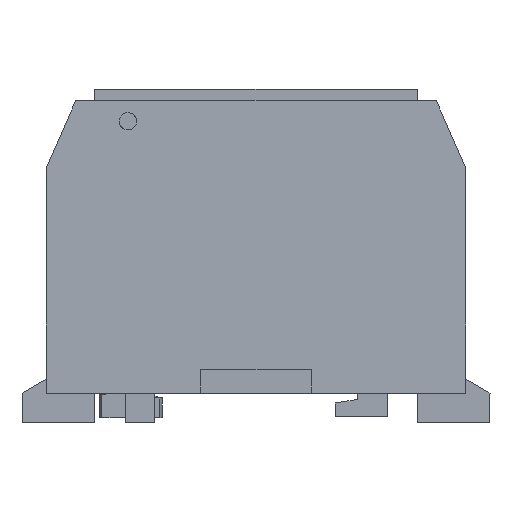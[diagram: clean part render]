
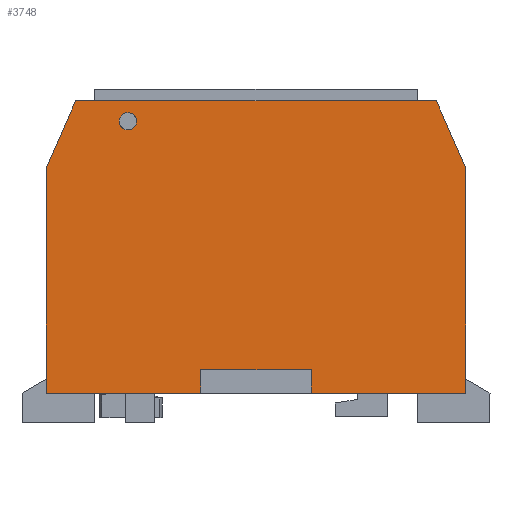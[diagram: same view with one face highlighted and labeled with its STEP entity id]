
A CAD part, left-side view. The second image highlights one B-rep face of the part: STEP entity #3748.
In plain terms, the highlighted planar face has unit normal (-1, 0, 0.01).
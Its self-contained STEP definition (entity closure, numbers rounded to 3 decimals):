
#142 = ORIENTED_EDGE ( 'NONE', *, *, #14923, .F. ) ;
#143 = ORIENTED_EDGE ( 'NONE', *, *, #17698, .T. ) ;
#144 = ORIENTED_EDGE ( 'NONE', *, *, #17747, .F. ) ;
#145 = ORIENTED_EDGE ( 'NONE', *, *, #17832, .T. ) ;
#146 = ORIENTED_EDGE ( 'NONE', *, *, #17831, .F. ) ;
#147 = ORIENTED_EDGE ( 'NONE', *, *, #17829, .T. ) ;
#148 = ORIENTED_EDGE ( 'NONE', *, *, #17810, .F. ) ;
#149 = ORIENTED_EDGE ( 'NONE', *, *, #17701, .T. ) ;
#150 = ORIENTED_EDGE ( 'NONE', *, *, #14915, .F. ) ;
#151 = ORIENTED_EDGE ( 'NONE', *, *, #17696, .T. ) ;
#152 = ORIENTED_EDGE ( 'NONE', *, *, #17833, .F. ) ;
#153 = ORIENTED_EDGE ( 'NONE', *, *, #8053, .T. ) ;
#154 = ORIENTED_EDGE ( 'NONE', *, *, #8051, .T. ) ;
#155 = ORIENTED_EDGE ( 'NONE', *, *, #17632, .T. ) ;
#1074 = CARTESIAN_POINT ( 'NONE',  ( -25.5, 22.5, 0. ) ) ;
#1075 = DIRECTION ( 'NONE',  ( 0., 1., 0. ) ) ;
#1091 = CARTESIAN_POINT ( 'NONE',  ( -25., -9.45, 50.2 ) ) ;
#1092 = DIRECTION ( 'NONE',  ( 0.01, 0., 1. ) ) ;
#2747 = LINE ( 'NONE', #11751, #2748 ) ;
#2748 = VECTOR ( 'NONE', #11752, 1000. ) ;
#2751 = LINE ( 'NONE', #11755, #2752 ) ;
#2752 = VECTOR ( 'NONE', #11756, 1000. ) ;
#2757 = LINE ( 'NONE', #11761, #2758 ) ;
#2758 = VECTOR ( 'NONE', #11762, 1000. ) ;
#2847 = LINE ( 'NONE', #11855, #2848 ) ;
#2848 = VECTOR ( 'NONE', #11856, 1000. ) ;
#2945 = LINE ( 'NONE', #12117, #2962 ) ;
#2955 = LINE ( 'NONE', #12069, #2956 ) ;
#2956 = VECTOR ( 'NONE', #12070, 1000. ) ;
#2962 = VECTOR ( 'NONE', #12118, 1000. ) ;
#2989 = LINE ( 'NONE', #12112, #2990 ) ;
#2990 = VECTOR ( 'NONE', #12113, 1000. ) ;
#2994 = LINE ( 'NONE', #12119, #2995 ) ;
#2995 = VECTOR ( 'NONE', #12120, 1000. ) ;
#2996 = LINE ( 'NONE', #12121, #2997 ) ;
#2997 = VECTOR ( 'NONE', #12122, 1000. ) ;
#3748 = ADVANCED_FACE ( 'NONE', ( #18488, #18487 ), #8486, .T. ) ;
#4304 = EDGE_LOOP ( 'NONE', ( #142, #143, #144, #145, #146, #147, #148, #149, #150, #151, #152, #153 ) ) ;
#4308 = EDGE_LOOP ( 'NONE', ( #154, #155 ) ) ;
#6248 = AXIS2_PLACEMENT_3D ( 'NONE', #8490, #8496, #8497 ) ;
#8051 = EDGE_CURVE ( 'NONE', #13817, #13816, #13070, .T. ) ;
#8053 = EDGE_CURVE ( 'NONE', #14256, #14253, #15554, .T. ) ;
#8486 = PLANE ( 'NONE',  #6248 ) ;
#8490 = CARTESIAN_POINT ( 'NONE',  ( -25., -36., 50.2 ) ) ;
#8496 = DIRECTION ( 'NONE',  ( -1., 0., 0.01 ) ) ;
#8497 = DIRECTION ( 'NONE',  ( 0.01, 0., 1. ) ) ;
#11615 = CARTESIAN_POINT ( 'NONE',  ( -25.035, 20.5, 46.7 ) ) ;
#11618 = CARTESIAN_POINT ( 'NONE',  ( -25.065, 20.5, 43.7 ) ) ;
#11619 = CARTESIAN_POINT ( 'NONE',  ( -25.065, 23.5, 43.7 ) ) ;
#11620 = CARTESIAN_POINT ( 'NONE',  ( -25.035, 23.5, 46.7 ) ) ;
#11751 = CARTESIAN_POINT ( 'NONE',  ( -25.5, 36., 0. ) ) ;
#11752 = DIRECTION ( 'NONE',  ( 0., -1., 0. ) ) ;
#11755 = CARTESIAN_POINT ( 'NONE',  ( -25.5, 36., 0. ) ) ;
#11756 = DIRECTION ( 'NONE',  ( 0., -1., 0. ) ) ;
#11761 = CARTESIAN_POINT ( 'NONE',  ( -25.5, 36., 0. ) ) ;
#11762 = DIRECTION ( 'NONE',  ( 0., -1., 0. ) ) ;
#11855 = CARTESIAN_POINT ( 'NONE',  ( -25., -36., 50.2 ) ) ;
#11856 = DIRECTION ( 'NONE',  ( -0.01, 0., -1. ) ) ;
#12069 = CARTESIAN_POINT ( 'NONE',  ( -25., 36., 50.2 ) ) ;
#12070 = DIRECTION ( 'NONE',  ( 0.01, 0., 1. ) ) ;
#12112 = CARTESIAN_POINT ( 'NONE',  ( -24.756, 20.349, 74.697 ) ) ;
#12113 = DIRECTION ( 'NONE',  ( -0.009, 0.399, -0.917 ) ) ;
#12117 = CARTESIAN_POINT ( 'NONE',  ( -25., -36., 50.2 ) ) ;
#12118 = DIRECTION ( 'NONE',  ( 0., -1., 0. ) ) ;
#12119 = CARTESIAN_POINT ( 'NONE',  ( -25.018, -31.795, 48.372 ) ) ;
#12120 = DIRECTION ( 'NONE',  ( 0.009, 0.399, 0.917 ) ) ;
#12121 = CARTESIAN_POINT ( 'NONE',  ( -25., 9.45, 50.2 ) ) ;
#12122 = DIRECTION ( 'NONE',  ( -0.01, 0., -1. ) ) ;
#13070 =( BOUNDED_CURVE ( )  B_SPLINE_CURVE ( 3, ( #19684, #19688, #19689, #19690 ),
 .UNSPECIFIED., .F., .F. ) 
 B_SPLINE_CURVE_WITH_KNOTS ( ( 4, 4 ),
 ( 4.712, 7.854 ),
 .UNSPECIFIED. ) 
 CURVE ( )  GEOMETRIC_REPRESENTATION_ITEM ( )  RATIONAL_B_SPLINE_CURVE ( ( 1., 0.333, 0.333, 1. ) ) 
 REPRESENTATION_ITEM ( '' )  );
#13093 =( BOUNDED_CURVE ( )  B_SPLINE_CURVE ( 3, ( #11615, #11618, #11619, #11620 ),
 .UNSPECIFIED., .F., .T. ) 
 B_SPLINE_CURVE_WITH_KNOTS ( ( 4, 4 ),
 ( 1.571, 4.712 ),
 .UNSPECIFIED. ) 
 CURVE ( )  GEOMETRIC_REPRESENTATION_ITEM ( )  RATIONAL_B_SPLINE_CURVE ( ( 1., 0.333, 0.333, 1. ) ) 
 REPRESENTATION_ITEM ( '' )  );
#13816 = VERTEX_POINT ( 'NONE', #16901 ) ;
#13817 = VERTEX_POINT ( 'NONE', #16902 ) ;
#13876 = VERTEX_POINT ( 'NONE', #16961 ) ;
#13877 = VERTEX_POINT ( 'NONE', #16962 ) ;
#13880 = VERTEX_POINT ( 'NONE', #16965 ) ;
#13882 = VERTEX_POINT ( 'NONE', #16967 ) ;
#13886 = VERTEX_POINT ( 'NONE', #16971 ) ;
#13887 = VERTEX_POINT ( 'NONE', #16972 ) ;
#13926 = VERTEX_POINT ( 'NONE', #17011 ) ;
#14243 = VERTEX_POINT ( 'NONE', #17328 ) ;
#14253 = VERTEX_POINT ( 'NONE', #17338 ) ;
#14254 = VERTEX_POINT ( 'NONE', #17339 ) ;
#14255 = VERTEX_POINT ( 'NONE', #17340 ) ;
#14256 = VERTEX_POINT ( 'NONE', #17341 ) ;
#14915 = EDGE_CURVE ( 'NONE', #13887, #13880, #16036, .T. ) ;
#14923 = EDGE_CURVE ( 'NONE', #13876, #14253, #16051, .T. ) ;
#15554 = LINE ( 'NONE', #19675, #15560 ) ;
#15560 = VECTOR ( 'NONE', #19693, 1000. ) ;
#16036 = LINE ( 'NONE', #1074, #16037 ) ;
#16037 = VECTOR ( 'NONE', #1075, 1000. ) ;
#16051 = LINE ( 'NONE', #1091, #16052 ) ;
#16052 = VECTOR ( 'NONE', #1092, 1000. ) ;
#16901 = CARTESIAN_POINT ( 'NONE',  ( -25.035, 20.5, 46.7 ) ) ;
#16902 = CARTESIAN_POINT ( 'NONE',  ( -25.035, 23.5, 46.7 ) ) ;
#16961 = CARTESIAN_POINT ( 'NONE',  ( -25.5, -9.45, 0. ) ) ;
#16962 = CARTESIAN_POINT ( 'NONE',  ( -25.5, -36., 0. ) ) ;
#16965 = CARTESIAN_POINT ( 'NONE',  ( -25.5, 22.5, 0. ) ) ;
#16967 = CARTESIAN_POINT ( 'NONE',  ( -25.5, 36., 0. ) ) ;
#16971 = CARTESIAN_POINT ( 'NONE',  ( -25.5, 9.45, 0. ) ) ;
#16972 = CARTESIAN_POINT ( 'NONE',  ( -25.5, 17.5, 0. ) ) ;
#17011 = CARTESIAN_POINT ( 'NONE',  ( -25.115, -36., 38.7 ) ) ;
#17328 = CARTESIAN_POINT ( 'NONE',  ( -25.115, 36., 38.7 ) ) ;
#17338 = CARTESIAN_POINT ( 'NONE',  ( -25.46, -9.45, 4. ) ) ;
#17339 = CARTESIAN_POINT ( 'NONE',  ( -25., -31., 50.2 ) ) ;
#17340 = CARTESIAN_POINT ( 'NONE',  ( -25., 31., 50.2 ) ) ;
#17341 = CARTESIAN_POINT ( 'NONE',  ( -25.46, 9.45, 4. ) ) ;
#17632 = EDGE_CURVE ( 'NONE', #13816, #13817, #13093, .T. ) ;
#17696 = EDGE_CURVE ( 'NONE', #13887, #13886, #2747, .T. ) ;
#17698 = EDGE_CURVE ( 'NONE', #13876, #13877, #2751, .T. ) ;
#17701 = EDGE_CURVE ( 'NONE', #13882, #13880, #2757, .T. ) ;
#17747 = EDGE_CURVE ( 'NONE', #13926, #13877, #2847, .T. ) ;
#17810 = EDGE_CURVE ( 'NONE', #13882, #14243, #2955, .T. ) ;
#17829 = EDGE_CURVE ( 'NONE', #14255, #14243, #2989, .T. ) ;
#17831 = EDGE_CURVE ( 'NONE', #14255, #14254, #2945, .T. ) ;
#17832 = EDGE_CURVE ( 'NONE', #13926, #14254, #2994, .T. ) ;
#17833 = EDGE_CURVE ( 'NONE', #14256, #13886, #2996, .T. ) ;
#18487 = FACE_BOUND ( 'NONE', #4308, .T. ) ;
#18488 = FACE_OUTER_BOUND ( 'NONE', #4304, .T. ) ;
#19675 = CARTESIAN_POINT ( 'NONE',  ( -25.46, -36., 4. ) ) ;
#19684 = CARTESIAN_POINT ( 'NONE',  ( -25.035, 23.5, 46.7 ) ) ;
#19688 = CARTESIAN_POINT ( 'NONE',  ( -25.005, 23.5, 49.7 ) ) ;
#19689 = CARTESIAN_POINT ( 'NONE',  ( -25.005, 20.5, 49.7 ) ) ;
#19690 = CARTESIAN_POINT ( 'NONE',  ( -25.035, 20.5, 46.7 ) ) ;
#19693 = DIRECTION ( 'NONE',  ( 0., -1., 0. ) ) ;
